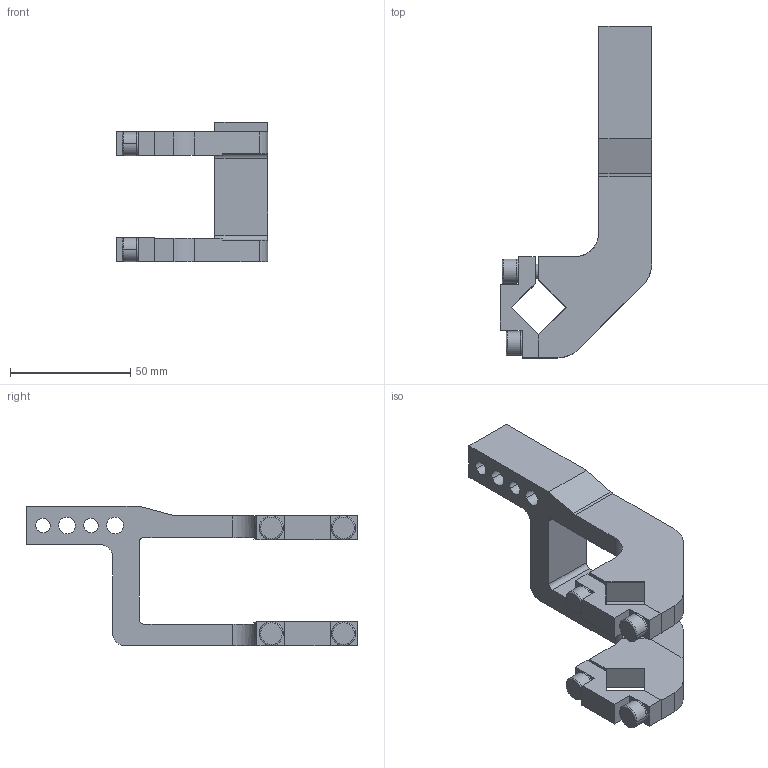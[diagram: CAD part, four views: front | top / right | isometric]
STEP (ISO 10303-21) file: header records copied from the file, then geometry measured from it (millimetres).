
FILE_DESCRIPTION(('CATIA V5 STEP Exchange'),'2;1');
FILE_NAME('E:\clampact\CLAMPACT\clampact\catalog\Clampact Arm\Arm 3D\Clampact Arm\arm_K40_25_A82_Clampact.stp','2022-12-06T07:49:13+00:00',('none'),('none'),'CATIA Version 5 Release 19 SP 6 (IN-10)','CATIA V5 STEP AP203','none');
FILE_SCHEMA(('CONFIG_CONTROL_DESIGN'));
Length unit declared in the file: millimetre
Products named in the file (1): K40_25_A82_Clampact_柯莱普
Bounding box: 63 x 138 x 58 mm (x, y, z)
Volume: 76909.1 mm3; surface area: 26825.9 mm2
Topology: 1 solids, 5 shells, 165 faces, 421 edges, 266 vertices
Faces by surface type: plane 82, cylinder 51, cone 20, torus 12
Entity records: 4710 total; most frequent: CARTESIAN_POINT 912, ORIENTED_EDGE 826, DIRECTION 644, EDGE_CURVE 413, AXIS2_PLACEMENT_3D 270, VERTEX_POINT 266, VECTOR 252, LINE 252
